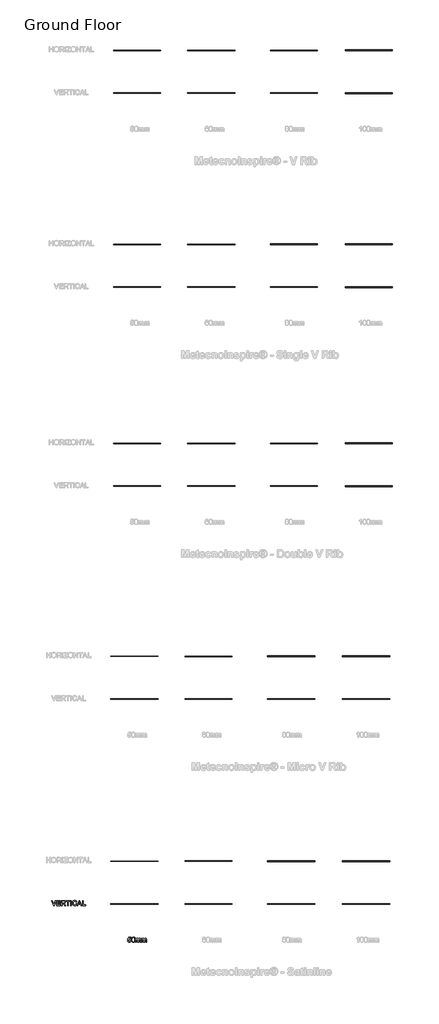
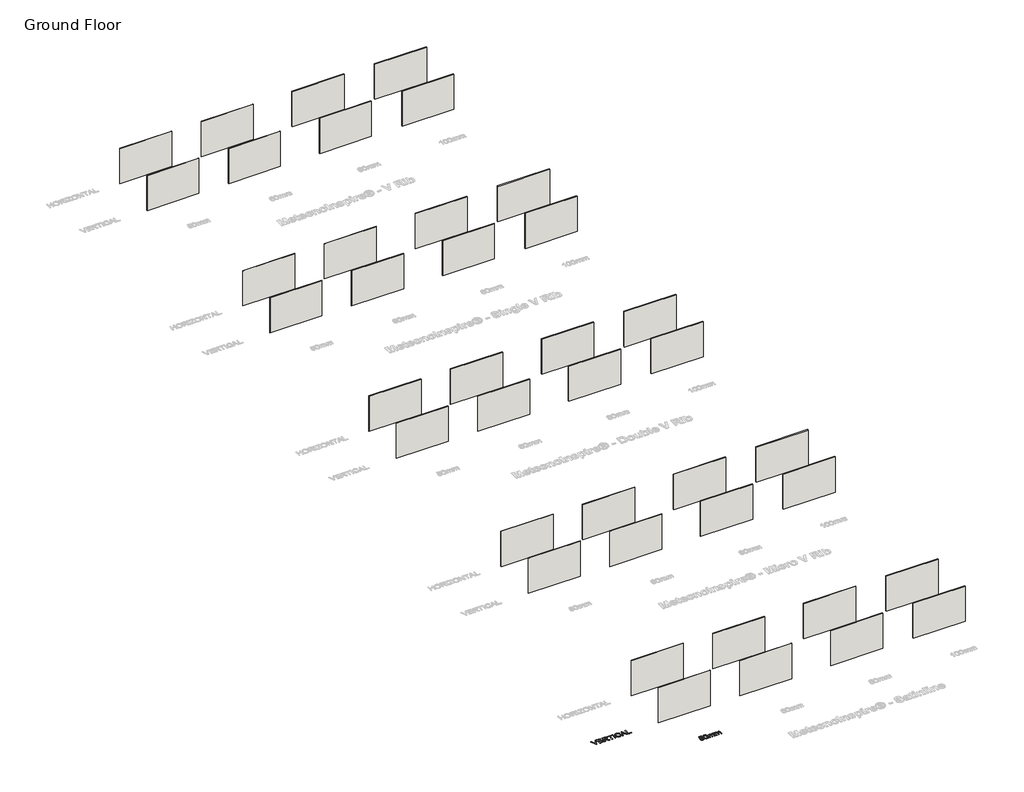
# One storey, part 1 of 14: 40 walls, 2 proxies.
"""IFC4 building model written with IfcOpenShell, lengths in millimetres."""

from ifc_helpers import new_model, si_unit, origin, origin_with_axes, place, context, project, spatial, polyline, outline, extrude, element, save

model = new_model("IFC4")

# Units and contexts
model_context = context("Model", 3, world=origin())
ifc_project = project(units=[si_unit("LENGTHUNIT", "METRE", prefix="MILLI")], contexts=[model_context])

# Site, building, storey
site = spatial("IfcSite", under=ifc_project)
building = spatial("IfcBuilding", under=site)
storey = spatial("IfcBuildingStorey", under=building, Name="Ground Floor", Elevation=0.0)

# Proxies
placement = place(None, origin())
element("IfcBuildingElementProxy", 1, Name="600mm Arial", ObjectType="600mm Arial", at=placement, inside=storey, context=model_context, shape_type="SweptSolid", body=[
    extrude(outline(polyline([(-7336.2514914, -98479.6316105), (-7260.9092588, -98470.2138315), (-7255.2806643, -98494.4342623), (-7247.0768958, -98515.4449228), (-7236.2979533, -98533.2458128), (-7222.9438369, -98547.8369324), (-7207.0421377, -98559.1998876), (-7188.6204467, -98567.3162841), (-7167.6787642, -98572.186122), (-7144.2170899, -98573.8094013), (-7115.5222943, -98571.5515255), (-7090.212013, -98564.7778983), (-7068.2862461, -98553.4885196), (-7049.7449936, -98537.6833894), (-7035.0021226, -98518.1442569), (-7024.4715005, -98495.6528714), (-7018.1531272, -98470.2092329), (-7016.0470028, -98441.8133414), (-7018.01977, -98414.9763499), (-7023.9380716, -98391.1192025), (-7033.8019076, -98370.2418993), (-7047.611278, -98352.3444402), (-7065.412168, -98337.9878453), (-7087.250563, -98327.7331347), (-7113.1264628, -98321.5803084), (-7143.0398675, -98319.5293662), (-7179.5889438, -98322.803516), (-7209.1850503, -98332.6259653), (-7232.8214685, -98347.6723389), (-7251.4914797, -98366.6182616), (-7326.8337123, -98357.2004825), (-7260.9092588, -98046.413773), (-6968.9581074, -98046.413773), (-6968.9581074, -98121.7560056), (-7199.9880004, -98121.7560056), (-7232.2144632, -98287.7443618), (-7205.625792, -98268.6880745), (-7178.3933273, -98255.0764407), (-7150.5170691, -98246.9094604), (-7121.9970174, -98244.1871336), (-7085.3053869, -98247.5624509), (-7051.6027976, -98257.6884028), (-7020.8892496, -98274.5649894), (-6993.1647427, -98298.1922105), (-6970.2135047, -98327.1261294), (-6953.8197633, -98359.9228093), (-6943.9835185, -98396.5822501), (-6940.7047702, -98437.1044519), (-6943.6570232, -98476.1367316), (-6952.5137822, -98512.4466845), (-6967.2750473, -98546.0343107), (-6987.9408184, -98576.8996101), (-7019.2475762, -98608.5098705), (-7055.7782583, -98631.0886279), (-7097.5328647, -98644.6358824), (-7144.5113955, -98649.1516339), (-7183.3919239, -98646.2499647), (-7218.5108589, -98637.544957), (-7249.8682004, -98623.0366108), (-7277.4639486, -98602.7249261), (-7300.4243836, -98577.6215785), (-7317.8757857, -98548.7382433), (-7329.818155, -98516.0749207), (-7336.2514914, -98479.6316105)])), origin_with_axes(), (0.0, 0.0, 1.0), 20.0),
    extrude(outline(polyline([(-6874.7803167, -98343.2209667), (-6869.2436926, -98246.7439135), (-6862.3229126, -98205.8308371), (-6852.6338205, -98169.8013942), (-6840.2178032, -98138.3612792), (-6825.1162473, -98111.2161865), (-6807.3291528, -98088.366116), (-6786.8565198, -98069.8110679), (-6763.6293703, -98055.454473), (-6737.5787266, -98045.1997624), (-6708.7045885, -98039.0469361), (-6677.0069561, -98036.9959939), (-6630.5802483, -98041.8520363), (-6589.0095828, -98056.4201633), (-6554.2447343, -98080.1301579), (-6528.2354772, -98112.4118029), (-6508.5905787, -98152.989187), (-6492.9188057, -98201.5863986), (-6482.654898, -98263.2986033), (-6479.2335954, -98343.2209667), (-6484.7150372, -98439.146197), (-6491.5668393, -98479.9213176), (-6501.1593624, -98515.9047753), (-6513.4788107, -98547.3586858), (-6528.5113887, -98574.5451653), (-6546.2570964, -98597.4642136), (-6566.7159339, -98616.1158307), (-6589.9706745, -98630.5689946), (-6616.1040918, -98640.8926831), (-6645.1161856, -98647.0868962), (-6677.0069561, -98649.1516339), (-6718.5040451, -98645.5647845), (-6755.2922446, -98634.8042361), (-6787.3715546, -98616.8699888), (-6814.741975, -98591.7620427), (-6841.0087495, -98546.3746015), (-6859.7707313, -98489.8219418), (-6871.0279203, -98422.1040635), (-6874.7803167, -98343.2209667)]), holes=[polyline([(-6799.438084, -98343.0738139), (-6797.2307921, -98408.5706046), (-6790.6089162, -98461.5869987), (-6779.5724563, -98502.122996), (-6764.1214125, -98530.1785967), (-6745.4330072, -98549.2670737), (-6724.6844626, -98562.9017001), (-6701.8757789, -98571.082476), (-6677.0069561, -98573.8094013), (-6652.1381332, -98571.073279), (-6629.3294495, -98562.8649119), (-6608.5809049, -98549.1843002), (-6589.8924996, -98530.0314439), (-6574.4414558, -98501.929858), (-6563.4049959, -98461.4030577), (-6556.78312, -98408.451043), (-6554.5758281, -98343.0738139), (-6556.7095436, -98279.3106671), (-6563.1106903, -98227.2277736), (-6573.7792682, -98186.8251335), (-6588.7152772, -98158.1027467), (-6607.0909829, -98138.0807692), (-6628.0786507, -98123.7793566), (-6651.6782807, -98115.1985091), (-6677.8898728, -98112.3382265), (-6702.629937, -98114.8582182), (-6725.0523446, -98122.4181932), (-6745.1570957, -98135.0181515), (-6762.9441901, -98152.6580932), (-6778.9102687, -98183.9280628), (-6790.3146106, -98226.0873395), (-6797.1572157, -98279.1359232), (-6799.438084, -98343.0738139)])]), origin_with_axes(), (0.0, 0.0, 1.0), 20.0),
    extrude(outline(polyline([(-6394.4735838, -98639.7338548), (-6394.4735838, -98197.0982382), (-6319.1313511, -98197.0982382), (-6319.1313511, -98269.9388733), (-6296.4698202, -98236.4800058), (-6267.3335662, -98210.2684137), (-6232.7158705, -98193.3274478), (-6193.6100144, -98187.6804592), (-6151.7082551, -98193.4378124), (-6133.8751754, -98200.6345039), (-6118.120629, -98210.7098721), (-6093.0310769, -98238.356204), (-6076.6235399, -98275.236374), (-6049.161149, -98236.9306613), (-6017.8359971, -98209.5694379), (-5982.6480843, -98193.1527038), (-5943.5974105, -98187.6804592), (-5913.4356854, -98189.956729), (-5886.9619773, -98196.7855385), (-5864.1762862, -98208.1668878), (-5845.0786122, -98224.1007767), (-5829.9816548, -98244.7711463), (-5819.1981138, -98270.3619376), (-5812.7279892, -98300.8731505), (-5810.571281, -98336.3047852), (-5810.571281, -98639.7338548), (-5885.9135136, -98639.7338548), (-5885.9135136, -98368.6784008), (-5887.6609531, -98331.099255), (-5892.9032715, -98305.7705796), (-5902.7257208, -98288.4249435), (-5918.2135528, -98274.7949156), (-5938.1343628, -98265.9657477), (-5961.2557462, -98263.0226918), (-5982.6066975, -98264.908087), (-6002.0722536, -98270.5642727), (-6019.6524144, -98279.9912488), (-6035.3471801, -98293.1890154), (-6048.2552396, -98310.5438485), (-6057.4752821, -98332.4420243), (-6063.0073076, -98358.8835427), (-6064.8513161, -98389.8684037), (-6064.8513161, -98639.7338548), (-6140.1935487, -98639.7338548), (-6140.1935487, -98360.2906913), (-6144.5529503, -98317.6899563), (-6150.0022024, -98300.9697196), (-6157.6311553, -98287.3029035), (-6167.7433116, -98276.6803108), (-6180.6421741, -98269.0927447), (-6196.3277426, -98264.540205), (-6214.8000173, -98263.0226918), (-6243.8259067, -98267.0693937), (-6270.5709278, -98279.2094996), (-6292.6438475, -98299.1487037), (-6307.6534329, -98326.5927005), (-6316.2618716, -98364.668487), (-6319.1313511, -98416.5030602), (-6319.1313511, -98639.7338548), (-6394.4735838, -98639.7338548)])), origin_with_axes(), (0.0, 0.0, 1.0), 20.0),
    extrude(outline(polyline([(-5697.5579321, -98639.7338548), (-5697.5579321, -98197.0982382), (-5622.2156995, -98197.0982382), (-5622.2156995, -98269.9388733), (-5599.5541686, -98236.4800058), (-5570.4179146, -98210.2684137), (-5535.8002188, -98193.3274478), (-5496.6943627, -98187.6804592), (-5454.7926035, -98193.4378124), (-5436.9595238, -98200.6345039), (-5421.2049773, -98210.7098721), (-5396.1154252, -98238.356204), (-5379.7078883, -98275.236374), (-5352.2454973, -98236.9306613), (-5320.9203454, -98209.5694379), (-5285.7324326, -98193.1527038), (-5246.6817588, -98187.6804592), (-5216.5200337, -98189.956729), (-5190.0463256, -98196.7855385), (-5167.2606346, -98208.1668878), (-5148.1629605, -98224.1007767), (-5133.0660031, -98244.7711463), (-5122.2824621, -98270.3619376), (-5115.8123375, -98300.8731505), (-5113.6556293, -98336.3047852), (-5113.6556293, -98639.7338548), (-5188.997862, -98639.7338548), (-5188.997862, -98368.6784008), (-5190.7453014, -98331.099255), (-5195.9876199, -98305.7705796), (-5205.8100691, -98288.4249435), (-5221.2979011, -98274.7949156), (-5241.2187112, -98265.9657477), (-5264.3400946, -98263.0226918), (-5285.6910459, -98264.908087), (-5305.1566019, -98270.5642727), (-5322.7367628, -98279.9912488), (-5338.4315284, -98293.1890154), (-5351.3395879, -98310.5438485), (-5360.5596304, -98332.4420243), (-5366.0916559, -98358.8835427), (-5367.9356644, -98389.8684037), (-5367.9356644, -98639.7338548), (-5443.277897, -98639.7338548), (-5443.277897, -98360.2906913), (-5447.6372987, -98317.6899563), (-5453.0865507, -98300.9697196), (-5460.7155036, -98287.3029035), (-5470.8276599, -98276.6803108), (-5483.7265224, -98269.0927447), (-5499.412091, -98264.540205), (-5517.8843656, -98263.0226918), (-5546.9102551, -98267.0693937), (-5573.6552761, -98279.2094996), (-5595.7281958, -98299.1487037), (-5610.7377812, -98326.5927005), (-5619.3462199, -98364.668487), (-5622.2156995, -98416.5030602), (-5622.2156995, -98639.7338548), (-5697.5579321, -98639.7338548)])), origin_with_axes(), (0.0, 0.0, 1.0), 20.0),
])
element("IfcBuildingElementProxy", 2, Name="600mm Arial", ObjectType="600mm Arial", at=placement, inside=storey, context=model_context, shape_type="SweptSolid", body=[
    extrude(outline(polyline([(-16157.0682649, -94302.1504882), (-16396.9273258, -93699.4126273), (-16316.2875924, -93699.4126273), (-16155.7438897, -94133.6605344), (-16123.2231214, -94231.5171451), (-16091.1438114, -94133.6605344), (-15930.1586503, -93699.4126273), (-15849.5189169, -93699.4126273), (-16079.2244347, -94302.1504882), (-16157.0682649, -94302.1504882)])), origin_with_axes(), (0.0, 0.0, 1.0), 20.0),
    extrude(outline(polyline([(-15779.4741851, -94302.1504882), (-15779.4741851, -93699.4126273), (-15346.2563475, -93699.4126273), (-15346.2563475, -93774.7548599), (-15704.1319524, -93774.7548599), (-15704.1319524, -93953.6926624), (-15365.0919057, -93953.6926624), (-15365.0919057, -94029.034895), (-15704.1319524, -94029.034895), (-15704.1319524, -94226.8082556), (-15336.8385685, -94226.8082556), (-15336.8385685, -94302.1504882), (-15779.4741851, -94302.1504882)])), origin_with_axes(), (0.0, 0.0, 1.0), 20.0),
    extrude(outline(polyline([(-15223.8252195, -94302.1504882), (-15223.8252195, -93699.4126273), (-14964.1005309, -93699.4126273), (-14894.2949224, -93703.4777233), (-14843.5088129, -93715.6730115), (-14823.9098996, -93725.3667021), (-14806.3895196, -93738.1873896), (-14790.9476729, -93754.1350741), (-14777.5843594, -93773.2097555), (-14766.8008184, -93794.3859629), (-14759.0982891, -93816.6382251), (-14754.4767716, -93839.9665421), (-14752.9362657, -93864.3709139), (-14755.4884471, -93895.3281838), (-14763.1449911, -93923.747068), (-14775.9058978, -93949.6275663), (-14793.7711672, -93972.9696789), (-14816.9707255, -93993.0284447), (-14845.734499, -94009.0589026), (-14880.0624877, -94021.0610527), (-14919.9546915, -94029.034895), (-14895.1226569, -94045.258491), (-14877.1332273, -94061.2613578), (-14846.2679279, -94097.8656163), (-14816.0648161, -94138.8108823), (-14715.559455, -94302.1504882), (-14803.1153699, -94302.1504882), (-14881.5478112, -94177.2177626), (-14938.2016385, -94094.5178901), (-14959.2628827, -94070.4032253), (-14978.0064704, -94055.4488222), (-15013.8381767, -94041.1014244), (-15057.5425577, -94038.4526741), (-15148.4829869, -94038.4526741), (-15148.4829869, -94302.1504882), (-15223.8252195, -94302.1504882)]), holes=[polyline([(-15148.4829869, -93963.1104414), (-14979.8458803, -93963.1104414), (-14931.4142157, -93960.443297), (-14893.8350699, -93952.4418636), (-14865.5449444, -93938.5727124), (-14844.9803409, -93918.3024144), (-14832.453959, -93893.7830795), (-14828.2784983, -93867.1668171), (-14830.2696596, -93847.8989976), (-14836.2431435, -93830.4154058), (-14846.19895, -93814.7160416), (-14860.1370791, -93800.8009052), (-14878.3794275, -93789.4057604), (-14901.2478921, -93781.2663712), (-14928.7424727, -93776.3827377), (-14960.8631694, -93774.7548599), (-15148.4829869, -93774.7548599), (-15148.4829869, -93963.1104414)])]), origin_with_axes(), (0.0, 0.0, 1.0), 20.0),
    extrude(outline(polyline([(-14470.4028934, -94302.1504882), (-14470.4028934, -93774.7548599), (-14668.176254, -93774.7548599), (-14668.176254, -93699.4126273), (-14197.2873002, -93699.4126273), (-14197.2873002, -93774.7548599), (-14395.0606608, -93774.7548599), (-14395.0606608, -94302.1504882), (-14470.4028934, -94302.1504882)])), origin_with_axes(), (0.0, 0.0, 1.0), 20.0),
    extrude(outline(polyline([(-14103.1095094, -94302.1504882), (-14103.1095094, -93699.4126273), (-14027.7672768, -93699.4126273), (-14027.7672768, -94302.1504882), (-14103.1095094, -94302.1504882)])), origin_with_axes(), (0.0, 0.0, 1.0), 20.0),
    extrude(outline(polyline([(-13453.2827532, -94087.8960142), (-13377.9405205, -94107.3201836), (-13392.8489384, -94154.1745542), (-13412.7053691, -94195.1152217), (-13437.5098126, -94230.1421862), (-13467.262269, -94259.2554476), (-13501.2913535, -94282.1423062), (-13538.9256816, -94298.4900623), (-13580.1652533, -94308.298716), (-13625.0100685, -94311.5682673), (-13670.9539312, -94309.0942609), (-13712.4004365, -94301.6722416), (-13749.3495844, -94289.3022095), (-13781.8013749, -94271.9841646), (-13810.2018649, -94249.9756242), (-13834.9971114, -94223.5341058), (-13856.1871143, -94192.6596094), (-13873.7718736, -94157.3521349), (-13887.581244, -94119.1383926), (-13897.44508, -94079.5450929), (-13903.3633816, -94038.5722357), (-13905.3361488, -93996.219821), (-13903.1058642, -93950.7771976), (-13896.4150104, -93908.3328124), (-13885.2635875, -93868.8866654), (-13869.6515953, -93832.4387568), (-13849.9285218, -93799.5914931), (-13826.443855, -93770.9472813), (-13799.1975947, -93746.5061212), (-13768.189741, -93726.2680129), (-13734.4733562, -93710.3985034), (-13699.1015023, -93699.0631394), (-13662.0741795, -93692.261921), (-13623.3913877, -93689.9948482), (-13580.2986105, -93692.9287071), (-13540.7834857, -93701.7302839), (-13504.8460133, -93716.3995784), (-13472.4861933, -93736.9365908), (-13444.2374546, -93762.7986951), (-13420.6332261, -93793.4432653), (-13401.6735078, -93828.8703014), (-13387.3582996, -93869.0798035), (-13462.7005322, -93887.0324448), (-13474.5647266, -93857.4041487), (-13488.8201539, -93832.0892689), (-13505.4668142, -93811.0878055), (-13524.5047074, -93794.3997585), (-13546.0441982, -93781.684837), (-13570.1956512, -93772.6027502), (-13596.9590664, -93767.1534982), (-13626.3344437, -93765.3370808), (-13660.133602, -93767.3512348), (-13691.0448866, -93773.3936965), (-13719.0682976, -93783.4644661), (-13744.2038349, -93797.5635436), (-13766.1342004, -93815.0563325), (-13784.5420957, -93835.3082363), (-13799.4275209, -93858.3192551), (-13810.7904761, -93884.0893889), (-13825.1930562, -93939.2349), (-13829.9939162, -93996.0726682), (-13824.3101394, -94065.6759417), (-13817.2054184, -94096.9459113), (-13807.2588089, -94125.8614361), (-13794.3093627, -94151.8477005), (-13778.1961313, -94174.329889), (-13758.9191148, -94193.3080014), (-13736.478313, -94208.7820378), (-13711.9635766, -94220.7887864), (-13686.4647558, -94229.3650355), (-13659.9818507, -94234.5107849), (-13632.5148612, -94236.2260347), (-13599.7595681, -94233.889984), (-13569.6254341, -94226.881832), (-13542.1124594, -94215.2015786), (-13517.2206439, -94198.849224), (-13495.5385988, -94177.8983443), (-13477.6549353, -94152.4225162), (-13463.5696534, -94122.4217395), (-13453.2827532, -94087.8960142)])), origin_with_axes(), (0.0, 0.0, 1.0), 20.0),
    extrude(outline(polyline([(-13344.5368354, -94302.1504882), (-13103.9420105, -93699.4126273), (-13039.7833906, -93699.4126273), (-12799.1885657, -94302.1504882), (-12878.7982295, -94302.1504882), (-12947.8128918, -94113.7949067), (-13196.0596621, -94113.7949067), (-13264.9271716, -94302.1504882), (-13344.5368354, -94302.1504882)]), holes=[polyline([(-13168.3949361, -94038.4526741), (-12975.330465, -94038.4526741), (-13029.6298475, -93890.2698064), (-13071.8627006, -93774.7548599), (-13109.3866641, -93877.3203602), (-13168.3949361, -94038.4526741)])]), origin_with_axes(), (0.0, 0.0, 1.0), 20.0),
    extrude(outline(polyline([(-12718.6959852, -94302.1504882), (-12718.6959852, -93699.4126273), (-12643.3537526, -93699.4126273), (-12643.3537526, -94226.8082556), (-12341.9848221, -94226.8082556), (-12341.9848221, -94302.1504882), (-12718.6959852, -94302.1504882)])), origin_with_axes(), (0.0, 0.0, 1.0), 20.0),
])

# Walls
element("IfcWall", 3, ObjectType="Cladding_MetecnoInspire_Vertical_VRib_50mm-Surfmist", at=placement, inside=storey, context=model_context, shape_type="SweptSolid", body=[
    extrude(outline(polyline([(-3415.5165243, 2017.4177182), (-9015.5165243, 2017.4177182), (-9015.5165243, 2067.4177182), (-3415.5165243, 2067.4177182), (-3415.5165243, 2017.4177182)])), origin_with_axes(), (0.0, 0.0, 1.0), 4000.0),
])
element("IfcWall", 4, ObjectType="Cladding_MetecnoInspire_Vertical_VRib_80mm-Surfmist", at=placement, inside=storey, context=model_context, shape_type="SweptSolid", body=[
    extrude(outline(polyline([(15189.2834757, 2002.4177182), (9589.2834757, 2002.4177182), (9589.2834757, 2082.4177182), (15189.2834757, 2082.4177182), (15189.2834757, 2002.4177182)])), origin_with_axes(), (0.0, 0.0, 1.0), 4000.0),
])
element("IfcWall", 5, ObjectType="Cladding_MetecnoInspire_Vertical_VRib_100mm-Surfmist", at=placement, inside=storey, context=model_context, shape_type="SweptSolid", body=[
    extrude(outline(polyline([(24089.2834757, 1992.4177182), (18489.2834757, 1992.4177182), (18489.2834757, 2092.4177182), (24089.2834757, 2092.4177182), (24089.2834757, 1992.4177182)])), origin_with_axes(), (0.0, 0.0, 1.0), 4000.0),
])
element("IfcWall", 6, ObjectType="Cladding_MetecnoInspire_Vertical_VRib_60mm-Surfmist", at=placement, inside=storey, context=model_context, shape_type="SweptSolid", body=[
    extrude(outline(polyline([(5379.6834757, 2012.4177182), (-220.3165243, 2012.4177182), (-220.3165243, 2072.4177182), (5379.6834757, 2072.4177182), (5379.6834757, 2012.4177182)])), origin_with_axes(), (0.0, 0.0, 1.0), 4000.0),
])
element("IfcWall", 7, ObjectType="Cladding_MetecnoInspire_Horizontal_VRib_50mm-Surfmist", at=placement, inside=storey, context=model_context, shape_type="SweptSolid", body=[
    extrude(outline(polyline([(-3415.5165243, 7089.5608175), (-9015.5165243, 7089.5608175), (-9015.5165243, 7139.5608175), (-3415.5165243, 7139.5608175), (-3415.5165243, 7089.5608175)])), origin_with_axes(), (0.0, 0.0, 1.0), 4000.0),
])
element("IfcWall", 8, ObjectType="Cladding_MetecnoInspire_Horizontal_VRib_80mm-Surfmist", at=placement, inside=storey, context=model_context, shape_type="SweptSolid", body=[
    extrude(outline(polyline([(15189.2834757, 7074.5608175), (9589.2834757, 7074.5608175), (9589.2834757, 7154.5608175), (15189.2834757, 7154.5608175), (15189.2834757, 7074.5608175)])), origin_with_axes(), (0.0, 0.0, 1.0), 4000.0),
])
element("IfcWall", 9, ObjectType="Cladding_MetecnoInspire_Horizontal_VRib_100mm-Surfmist", at=placement, inside=storey, context=model_context, shape_type="SweptSolid", body=[
    extrude(outline(polyline([(24089.2834757, 7064.5608175), (18489.2834757, 7064.5608175), (18489.2834757, 7164.5608175), (24089.2834757, 7164.5608175), (24089.2834757, 7064.5608175)])), origin_with_axes(), (0.0, 0.0, 1.0), 4000.0),
])
element("IfcWall", 10, ObjectType="Cladding_MetecnoInspire_Horizontal_VRib_60mm-Surfmist", at=placement, inside=storey, context=model_context, shape_type="SweptSolid", body=[
    extrude(outline(polyline([(5379.6834757, 7084.5608175), (-220.3165243, 7084.5608175), (-220.3165243, 7144.5608175), (5379.6834757, 7144.5608175), (5379.6834757, 7084.5608175)])), origin_with_axes(), (0.0, 0.0, 1.0), 4000.0),
])
element("IfcWall", 11, ObjectType="Cladding_MetecnoInspire_Vertical_SingleVRib_50mm-Surfmist", at=placement, inside=storey, context=model_context, shape_type="SweptSolid", body=[
    extrude(outline(polyline([(-3415.5165243, -20982.5822818), (-9015.5165243, -20982.5822818), (-9015.5165243, -20932.5822818), (-3415.5165243, -20932.5822818), (-3415.5165243, -20982.5822818)])), origin_with_axes(), (0.0, 0.0, 1.0), 4000.0),
])
element("IfcWall", 12, ObjectType="Cladding_MetecnoInspire_Vertical_SingleVRib_80mm-Surfmist", at=placement, inside=storey, context=model_context, shape_type="SweptSolid", body=[
    extrude(outline(polyline([(15189.2834757, -20997.5822818), (9589.2834757, -20997.5822818), (9589.2834757, -20917.5822818), (15189.2834757, -20917.5822818), (15189.2834757, -20997.5822818)])), origin_with_axes(), (0.0, 0.0, 1.0), 4000.0),
])
element("IfcWall", 13, ObjectType="Cladding_MetecnoInspire_Vertical_SingleVRib_100mm-Surfmist", at=placement, inside=storey, context=model_context, shape_type="SweptSolid", body=[
    extrude(outline(polyline([(24089.2834757, -21007.5822818), (18489.2834757, -21007.5822818), (18489.2834757, -20907.5822818), (24089.2834757, -20907.5822818), (24089.2834757, -21007.5822818)])), origin_with_axes(), (0.0, 0.0, 1.0), 4000.0),
])
element("IfcWall", 14, ObjectType="Cladding_MetecnoInspire_Vertical_SingleVRib_60mm-Surfmist", at=placement, inside=storey, context=model_context, shape_type="SweptSolid", body=[
    extrude(outline(polyline([(5379.6834757, -20987.5822818), (-220.3165243, -20987.5822818), (-220.3165243, -20927.5822818), (5379.6834757, -20927.5822818), (5379.6834757, -20987.5822818)])), origin_with_axes(), (0.0, 0.0, 1.0), 4000.0),
])
element("IfcWall", 15, ObjectType="Cladding_MetecnoInspire_Horizontal_SingleVRib_50mm-Surfmist", at=placement, inside=storey, context=model_context, shape_type="SweptSolid", body=[
    extrude(outline(polyline([(-3415.5165243, -15910.4391825), (-9015.5165243, -15910.4391825), (-9015.5165243, -15860.4391825), (-3415.5165243, -15860.4391825), (-3415.5165243, -15910.4391825)])), origin_with_axes(), (0.0, 0.0, 1.0), 4000.0),
])
element("IfcWall", 16, ObjectType="Cladding_MetecnoInspire_Horizontal_SingleVRib_80mm-Surfmist", at=placement, inside=storey, context=model_context, shape_type="SweptSolid", body=[
    extrude(outline(polyline([(15189.2834757, -15925.4391825), (9589.2834757, -15925.4391825), (9589.2834757, -15845.4391825), (15189.2834757, -15845.4391825), (15189.2834757, -15925.4391825)])), origin_with_axes(), (0.0, 0.0, 1.0), 4000.0),
])
element("IfcWall", 17, ObjectType="Cladding_MetecnoInspire_Horizontal_SingleVRib_100mm-Surfmist", at=placement, inside=storey, context=model_context, shape_type="SweptSolid", body=[
    extrude(outline(polyline([(24089.2834757, -15935.4391825), (18489.2834757, -15935.4391825), (18489.2834757, -15835.4391825), (24089.2834757, -15835.4391825), (24089.2834757, -15935.4391825)])), origin_with_axes(), (0.0, 0.0, 1.0), 4000.0),
])
element("IfcWall", 18, ObjectType="Cladding_MetecnoInspire_Horizontal_SingleVRib_60mm-Surfmist", at=placement, inside=storey, context=model_context, shape_type="SweptSolid", body=[
    extrude(outline(polyline([(5379.6834757, -15915.4391825), (-220.3165243, -15915.4391825), (-220.3165243, -15855.4391825), (5379.6834757, -15855.4391825), (5379.6834757, -15915.4391825)])), origin_with_axes(), (0.0, 0.0, 1.0), 4000.0),
])
element("IfcWall", 19, ObjectType="Cladding_MetecnoInspire_Vertical_DoubleVRib_50mm-Surfmist", at=placement, inside=storey, context=model_context, shape_type="SweptSolid", body=[
    extrude(outline(polyline([(-3415.5165243, -44582.5822818), (-9015.5165243, -44582.5822818), (-9015.5165243, -44532.5822818), (-3415.5165243, -44532.5822818), (-3415.5165243, -44582.5822818)])), origin_with_axes(), (0.0, 0.0, 1.0), 4000.0),
])
element("IfcWall", 20, ObjectType="Cladding_MetecnoInspire_Vertical_DoubleVRib_80mm-Surfmist", at=placement, inside=storey, context=model_context, shape_type="SweptSolid", body=[
    extrude(outline(polyline([(15189.2834757, -44597.5822818), (9589.2834757, -44597.5822818), (9589.2834757, -44517.5822818), (15189.2834757, -44517.5822818), (15189.2834757, -44597.5822818)])), origin_with_axes(), (0.0, 0.0, 1.0), 4000.0),
])
element("IfcWall", 21, ObjectType="Cladding_MetecnoInspire_Vertical_DoubleVRib_100mm-Surfmist", at=placement, inside=storey, context=model_context, shape_type="SweptSolid", body=[
    extrude(outline(polyline([(24089.2834757, -44607.5822818), (18489.2834757, -44607.5822818), (18489.2834757, -44507.5822818), (24089.2834757, -44507.5822818), (24089.2834757, -44607.5822818)])), origin_with_axes(), (0.0, 0.0, 1.0), 4000.0),
])
element("IfcWall", 22, ObjectType="Cladding_MetecnoInspire_Vertical_DoubleVRib_60mm-Surfmist", at=placement, inside=storey, context=model_context, shape_type="SweptSolid", body=[
    extrude(outline(polyline([(5379.6834757, -44587.5822818), (-220.3165243, -44587.5822818), (-220.3165243, -44527.5822818), (5379.6834757, -44527.5822818), (5379.6834757, -44587.5822818)])), origin_with_axes(), (0.0, 0.0, 1.0), 4000.0),
])
element("IfcWall", 23, ObjectType="Cladding_MetecnoInspire_Horizontal_DoubleVRib_50mm-Surfmist", at=placement, inside=storey, context=model_context, shape_type="SweptSolid", body=[
    extrude(outline(polyline([(-3415.5165243, -39510.4391825), (-9015.5165243, -39510.4391825), (-9015.5165243, -39460.4391825), (-3415.5165243, -39460.4391825), (-3415.5165243, -39510.4391825)])), origin_with_axes(), (0.0, 0.0, 1.0), 4000.0),
])
element("IfcWall", 24, ObjectType="Cladding_MetecnoInspire_Horizontal_DoubleVRib_80mm-Surfmist", at=placement, inside=storey, context=model_context, shape_type="SweptSolid", body=[
    extrude(outline(polyline([(15189.2834757, -39525.4391825), (9589.2834757, -39525.4391825), (9589.2834757, -39445.4391825), (15189.2834757, -39445.4391825), (15189.2834757, -39525.4391825)])), origin_with_axes(), (0.0, 0.0, 1.0), 4000.0),
])
element("IfcWall", 25, ObjectType="Cladding_MetecnoInspire_Horizontal_DoubleVRib_100mm-Surfmist", at=placement, inside=storey, context=model_context, shape_type="SweptSolid", body=[
    extrude(outline(polyline([(24089.2834757, -39535.4391825), (18489.2834757, -39535.4391825), (18489.2834757, -39435.4391825), (24089.2834757, -39435.4391825), (24089.2834757, -39535.4391825)])), origin_with_axes(), (0.0, 0.0, 1.0), 4000.0),
])
element("IfcWall", 26, ObjectType="Cladding_MetecnoInspire_Horizontal_DoubleVRib_60mm-Surfmist", at=placement, inside=storey, context=model_context, shape_type="SweptSolid", body=[
    extrude(outline(polyline([(5379.6834757, -39515.4391825), (-220.3165243, -39515.4391825), (-220.3165243, -39455.4391825), (5379.6834757, -39455.4391825), (5379.6834757, -39515.4391825)])), origin_with_axes(), (0.0, 0.0, 1.0), 4000.0),
])
element("IfcWall", 27, ObjectType="Cladding_MetecnoInspire_Vertical_MicroVRib_50mm-Surfmist", at=placement, inside=storey, context=model_context, shape_type="SweptSolid", body=[
    extrude(outline(polyline([(-3746.8000119, -69831.9287666), (-9346.8000119, -69831.9287666), (-9346.8000119, -69781.9287666), (-3746.8000119, -69781.9287666), (-3746.8000119, -69831.9287666)])), origin_with_axes(), (0.0, 0.0, 1.0), 4000.0),
])
element("IfcWall", 28, ObjectType="Cladding_MetecnoInspire_Vertical_MicroVRib_80mm-Surfmist", at=placement, inside=storey, context=model_context, shape_type="SweptSolid", body=[
    extrude(outline(polyline([(14857.9999881, -69846.9287666), (9257.9999881, -69846.9287666), (9257.9999881, -69766.9287666), (14857.9999881, -69766.9287666), (14857.9999881, -69846.9287666)])), origin_with_axes(), (0.0, 0.0, 1.0), 4000.0),
])
element("IfcWall", 29, ObjectType="Cladding_MetecnoInspire_Vertical_MicroVRib_100mm-Surfmist", at=placement, inside=storey, context=model_context, shape_type="SweptSolid", body=[
    extrude(outline(polyline([(23757.9999881, -69856.9287666), (18157.9999881, -69856.9287666), (18157.9999881, -69756.9287666), (23757.9999881, -69756.9287666), (23757.9999881, -69856.9287666)])), origin_with_axes(), (0.0, 0.0, 1.0), 4000.0),
])
element("IfcWall", 30, ObjectType="Cladding_MetecnoInspire_Vertical_MicroVRib_60mm-Surfmist", at=placement, inside=storey, context=model_context, shape_type="SweptSolid", body=[
    extrude(outline(polyline([(5048.3999881, -69836.9287666), (-551.6000119, -69836.9287666), (-551.6000119, -69776.9287666), (5048.3999881, -69776.9287666), (5048.3999881, -69836.9287666)])), origin_with_axes(), (0.0, 0.0, 1.0), 4000.0),
])
element("IfcWall", 31, ObjectType="Cladding_MetecnoInspire_Horizontal_MicroVRib_50mm-Surfmist", at=placement, inside=storey, context=model_context, shape_type="SweptSolid", body=[
    extrude(outline(polyline([(-3746.8000119, -64759.7856673), (-9346.8000119, -64759.7856673), (-9346.8000119, -64709.7856673), (-3746.8000119, -64709.7856673), (-3746.8000119, -64759.7856673)])), origin_with_axes(), (0.0, 0.0, 1.0), 4000.0),
])
element("IfcWall", 32, ObjectType="Cladding_MetecnoInspire_Horizontal_MicroVRib_80mm-Surfmist", at=placement, inside=storey, context=model_context, shape_type="SweptSolid", body=[
    extrude(outline(polyline([(14857.9999881, -64774.7856673), (9257.9999881, -64774.7856673), (9257.9999881, -64694.7856673), (14857.9999881, -64694.7856673), (14857.9999881, -64774.7856673)])), origin_with_axes(), (0.0, 0.0, 1.0), 4000.0),
])
element("IfcWall", 33, ObjectType="Cladding_MetecnoInspire_Horizontal_MicroVRib_100mm-Surfmist", at=placement, inside=storey, context=model_context, shape_type="SweptSolid", body=[
    extrude(outline(polyline([(23757.9999881, -64784.7856673), (18157.9999881, -64784.7856673), (18157.9999881, -64684.7856673), (23757.9999881, -64684.7856673), (23757.9999881, -64784.7856673)])), origin_with_axes(), (0.0, 0.0, 1.0), 4000.0),
])
element("IfcWall", 34, ObjectType="Cladding_MetecnoInspire_Horizontal_MicroVRib_60mm-Surfmist", at=placement, inside=storey, context=model_context, shape_type="SweptSolid", body=[
    extrude(outline(polyline([(5048.3999881, -64764.7856673), (-551.6000119, -64764.7856673), (-551.6000119, -64704.7856673), (5048.3999881, -64704.7856673), (5048.3999881, -64764.7856673)])), origin_with_axes(), (0.0, 0.0, 1.0), 4000.0),
])
element("IfcWall", 35, ObjectType="Cladding_MetecnoInspire_Vertical_Satinline_50mm-Surfmist", at=placement, inside=storey, context=model_context, shape_type="SweptSolid", body=[
    extrude(outline(polyline([(-3746.8000119, -94136.7287666), (-9346.8000119, -94136.7287666), (-9346.8000119, -94086.7287666), (-3746.8000119, -94086.7287666), (-3746.8000119, -94136.7287666)])), origin_with_axes(), (0.0, 0.0, 1.0), 4000.0),
])
element("IfcWall", 36, ObjectType="Cladding_MetecnoInspire_Vertical_Satinline_80mm-Surfmist", at=placement, inside=storey, context=model_context, shape_type="SweptSolid", body=[
    extrude(outline(polyline([(14857.9999881, -94151.7287666), (9257.9999881, -94151.7287666), (9257.9999881, -94071.7287666), (14857.9999881, -94071.7287666), (14857.9999881, -94151.7287666)])), origin_with_axes(), (0.0, 0.0, 1.0), 4000.0),
])
element("IfcWall", 37, ObjectType="Cladding_MetecnoInspire_Vertical_Satinline_100mm-Surfmist", at=placement, inside=storey, context=model_context, shape_type="SweptSolid", body=[
    extrude(outline(polyline([(23757.9999881, -94161.7287666), (18157.9999881, -94161.7287666), (18157.9999881, -94061.7287666), (23757.9999881, -94061.7287666), (23757.9999881, -94161.7287666)])), origin_with_axes(), (0.0, 0.0, 1.0), 4000.0),
])
element("IfcWall", 38, ObjectType="Cladding_MetecnoInspire_Vertical_Satinline_60mm-Surfmist", at=placement, inside=storey, context=model_context, shape_type="SweptSolid", body=[
    extrude(outline(polyline([(5048.3999881, -94141.7287666), (-551.6000119, -94141.7287666), (-551.6000119, -94081.7287666), (5048.3999881, -94081.7287666), (5048.3999881, -94141.7287666)])), origin_with_axes(), (0.0, 0.0, 1.0), 4000.0),
])
element("IfcWall", 39, ObjectType="Cladding_MetecnoInspire_Horizontal_Satinline_50mm-Surfmist", at=placement, inside=storey, context=model_context, shape_type="SweptSolid", body=[
    extrude(outline(polyline([(-3746.8000119, -89064.5856673), (-9346.8000119, -89064.5856673), (-9346.8000119, -89014.5856673), (-3746.8000119, -89014.5856673), (-3746.8000119, -89064.5856673)])), origin_with_axes(), (0.0, 0.0, 1.0), 4000.0),
])
element("IfcWall", 40, ObjectType="Cladding_MetecnoInspire_Horizontal_Satinline_80mm-Surfmist", at=placement, inside=storey, context=model_context, shape_type="SweptSolid", body=[
    extrude(outline(polyline([(14857.9999881, -89079.5856673), (9257.9999881, -89079.5856673), (9257.9999881, -88999.5856673), (14857.9999881, -88999.5856673), (14857.9999881, -89079.5856673)])), origin_with_axes(), (0.0, 0.0, 1.0), 4000.0),
])
element("IfcWall", 41, ObjectType="Cladding_MetecnoInspire_Horizontal_Satinline_100mm-Surfmist", at=placement, inside=storey, context=model_context, shape_type="SweptSolid", body=[
    extrude(outline(polyline([(23757.9999881, -89089.5856673), (18157.9999881, -89089.5856673), (18157.9999881, -88989.5856673), (23757.9999881, -88989.5856673), (23757.9999881, -89089.5856673)])), origin_with_axes(), (0.0, 0.0, 1.0), 4000.0),
])
element("IfcWall", 42, ObjectType="Cladding_MetecnoInspire_Horizontal_Satinline_60mm-Surfmist", at=placement, inside=storey, context=model_context, shape_type="SweptSolid", body=[
    extrude(outline(polyline([(5048.3999881, -89069.5856673), (-551.6000119, -89069.5856673), (-551.6000119, -89009.5856673), (5048.3999881, -89009.5856673), (5048.3999881, -89069.5856673)])), origin_with_axes(), (0.0, 0.0, 1.0), 4000.0),
])

save(model, "model.ifc")
